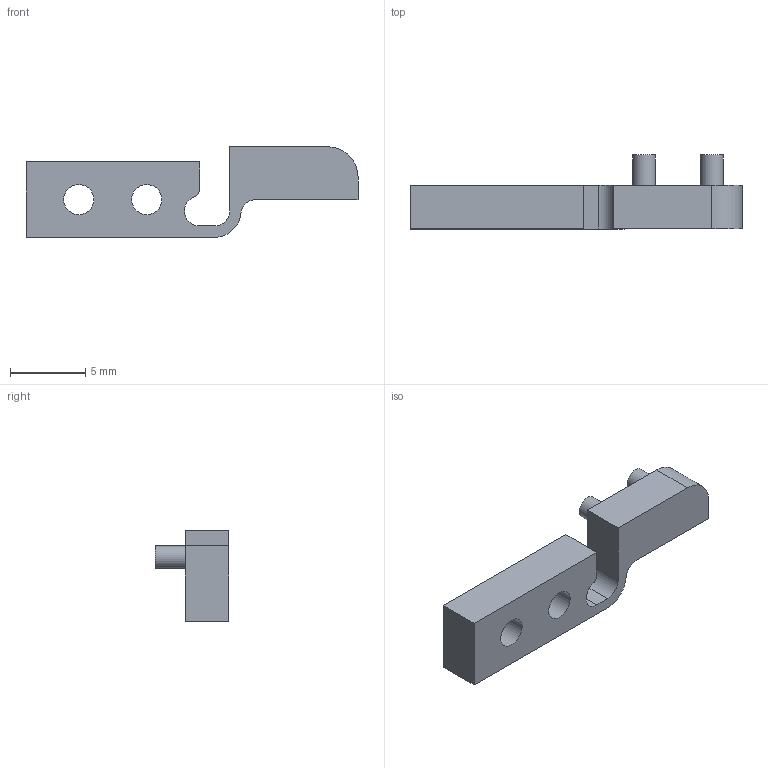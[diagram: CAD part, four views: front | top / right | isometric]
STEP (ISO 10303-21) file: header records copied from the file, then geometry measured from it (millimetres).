
FILE_DESCRIPTION(/* description */ (''),/* implementation_level */ '2;1');
FILE_NAME(/* name */ 'Trigger Spring.step',/* time_stamp */ '2022-11-01T15:04:17+09:00',/* author */ (''),/* organization */ (''),/* preprocessor_version */ 'ST-DEVELOPER v19.2',/* originating_system */ 'Autodesk Translation Framework v11.17.0.187',/* authorisation */ '');
FILE_SCHEMA (('AUTOMOTIVE_DESIGN { 1 0 10303 214 3 1 1 }'));
Length unit declared in the file: millimetre
Products named in the file (1): MirrorTrigger Spring
Bounding box: 22 x 4.9 x 6 mm (x, y, z)
Volume: 243.8 mm3; surface area: 401.4 mm2
Topology: 1 solids, 1 shells, 23 faces, 57 edges, 38 vertices
Faces by surface type: plane 13, cylinder 10
Full cylindrical faces by diameter (mm): 1.5 x2, 2 x2
Entity records: 769 total; most frequent: DIRECTION 125, CARTESIAN_POINT 119, ORIENTED_EDGE 114, EDGE_CURVE 57, AXIS2_PLACEMENT_3D 44, VERTEX_POINT 38, LINE 37, VECTOR 37
